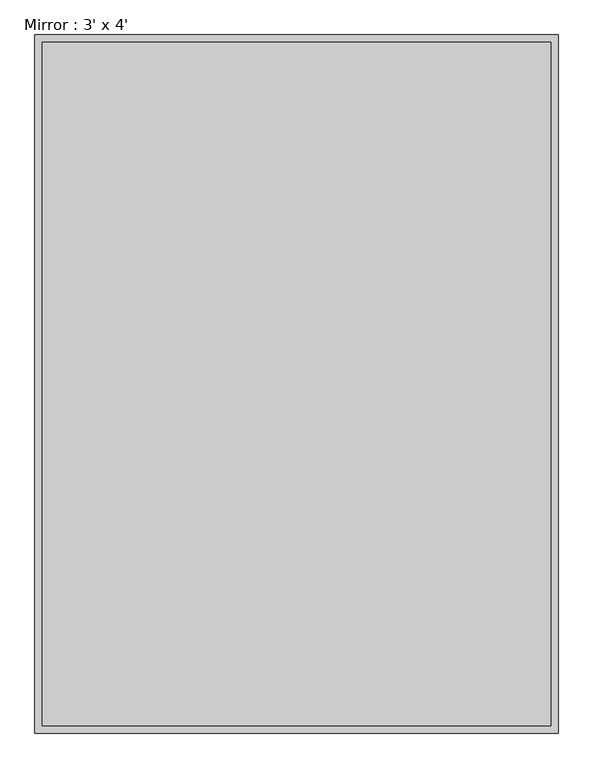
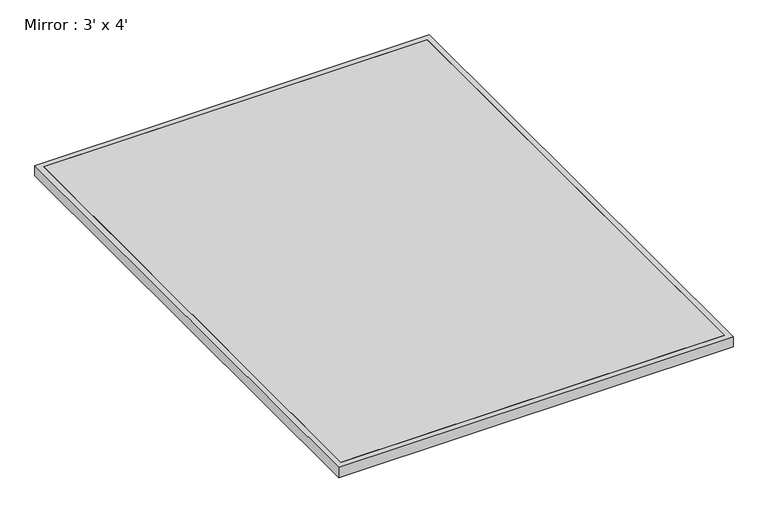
"""IFC4 building model written with IfcOpenShell, lengths in millimetres: furniture geometry, Mirror : 3' x 4'."""

from ifc_helpers import new_model, si_unit, origin, origin_with_axes, place, context, project, spatial, polyline, outline, extrude, source, transform, mapped, element, save


def mirror_3_x_4_424c4327(model_context):
    return source(origin(), model_context, "Body", "SweptSolid", [
        extrude(outline(polyline([(444.5, -596.9), (-444.5, -596.9), (-444.5, 596.9), (444.5, 596.9), (444.5, -596.9)])), origin_with_axes(), (0.0, 0.0, 1.0), 25.4),
        extrude(outline(polyline([(457.2, -609.6), (-457.2, -609.6), (-457.2, 609.6), (457.2, 609.6), (457.2, -609.6)]), holes=[polyline([(444.5, -596.9), (444.5, 596.9), (-444.5, 596.9), (-444.5, -596.9), (444.5, -596.9)])]), origin_with_axes(), (0.0, 0.0, 1.0), 25.4),
    ])


if __name__ == "__main__":
    model = new_model("IFC4")
    model_context = context("Model", 3, world=origin())
    ifc_project = project(units=[si_unit("LENGTHUNIT", "METRE", prefix="MILLI")], contexts=[model_context])
    site = spatial("IfcSite", under=ifc_project)
    building = spatial("IfcBuilding", under=site)
    placement = place(None, origin())
    mirror_3_x_4_shape = mirror_3_x_4_424c4327(model_context)
    element("IfcFurniture", 1, ObjectType="Mirror : 3' x 4'", at=placement, inside=building, context=model_context, shape_type="MappedRepresentation", body=[
        mapped(mirror_3_x_4_shape, transform((0.0, 0.0, 0.0), x_axis=(1.0, 0.0, 0.0), y_axis=(0.0, 1.0, 0.0), z_axis=(0.0, 0.0, 1.0))),
    ])
    save(model, "model.ifc")
